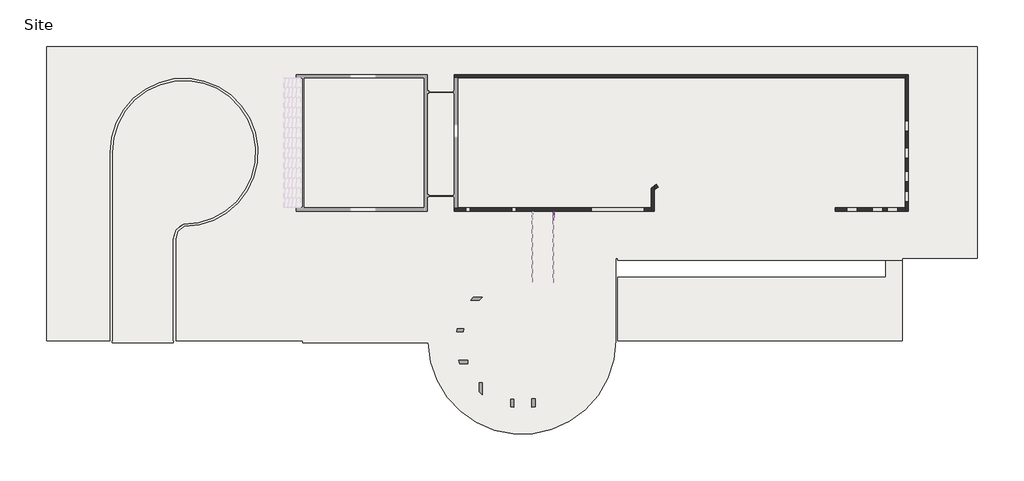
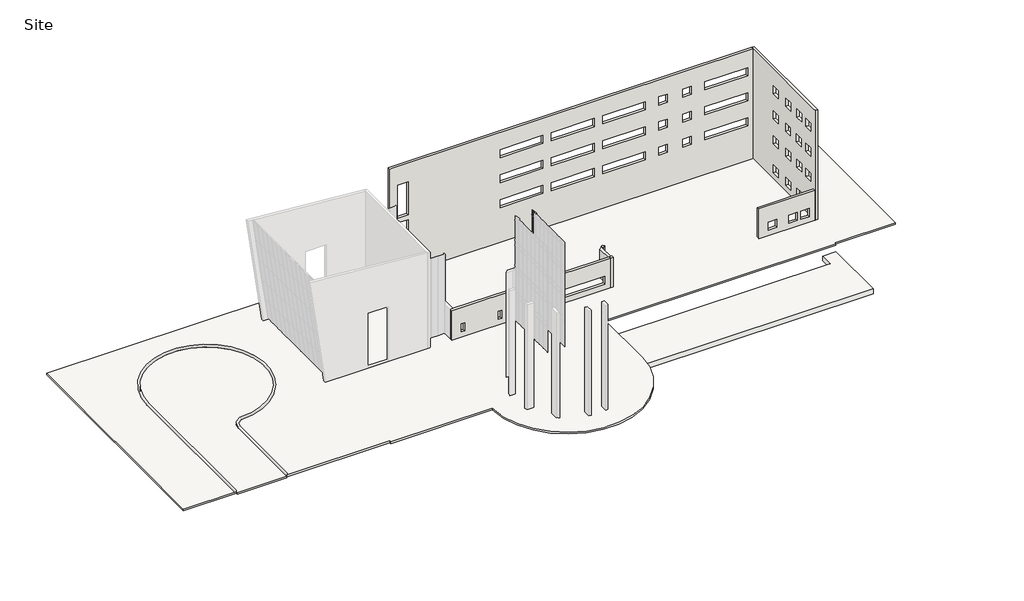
# One storey, part 4 of 4: 17 members, 6 walls, 3 slabs, 1 plate.
"""IFC4 building model written with IfcOpenShell, lengths in millimetres."""

import ifcopenshell
import ifcopenshell.guid

model = None  # the IFC model being written
_history = None  # IfcOwnerHistory: only IFC2X3 demands one
_inside = {}  # id of a spatial element -> (the spatial element, [elements in it])
_under = {}  # id of a project, library or spatial element -> (it, [spatial elements below it])
_declared = {}  # id of a project -> (the project, [libraries it declares])
_typed = {}  # id of a type object -> (the type object, [elements of that type])
_made_of = {}  # id of a material, layer set ... -> (it, [elements and type objects made of it])


def new_model(schema):
    """Start an empty IFC model of exactly this schema.

    Asked for "IFC4X3", IfcOpenShell would pick the latest addendum, in which some entities
    have other attributes; the version numbers below select the first issue.
    IFC2X3 requires an IfcOwnerHistory on every rooted entity: one is made here for all.
    """
    global model, _history
    if schema == "IFC4X3":
        model = ifcopenshell.file(schema_version=(4, 3, 0, 0))
    else:
        model = ifcopenshell.file(schema=schema)
    _inside.clear()
    _under.clear()
    _declared.clear()
    _typed.clear()
    _made_of.clear()
    _history = None
    if model.schema == "IFC2X3":
        org = make("IfcOrganization", Name="unknown")
        user = make(
            "IfcPersonAndOrganization",
            ThePerson=make("IfcPerson", FamilyName="unknown"),
            TheOrganization=org,
        )
        app = make(
            "IfcApplication",
            ApplicationDeveloper=org,
            Version="unknown",
            ApplicationFullName="unknown",
            ApplicationIdentifier="unknown",
        )
        _history = make(
            "IfcOwnerHistory",
            OwningUser=user,
            OwningApplication=app,
            ChangeAction="ADDED",
            CreationDate=0,
        )
    return model


def make(cls, **values):
    """One entity of the class cls with the attributes given. An attribute that is None is left unset."""
    return model.create_entity(
        cls, **{name: value for name, value in values.items() if value is not None}
    )


def rooted(cls, **values):
    """An entity with a GlobalId (a new one), such as an element, a storey or a relation."""
    return make(cls, GlobalId=ifcopenshell.guid.new(), OwnerHistory=_history, **values)


def si_unit(unit_type, name, prefix=None):
    """IfcSIUnit, for example si_unit("LENGTHUNIT", "METRE", prefix="MILLI")."""
    return make("IfcSIUnit", UnitType=unit_type, Prefix=prefix, Name=name)


def assignment(units):
    """IfcUnitAssignment: the units of a project."""
    return None if units is None else make("IfcUnitAssignment", Units=units)


def point(xyz):
    """IfcCartesianPoint."""
    return None if xyz is None else make("IfcCartesianPoint", Coordinates=xyz)


def direction(xyz):
    """IfcDirection."""
    return None if xyz is None else make("IfcDirection", DirectionRatios=xyz)


def frame(location, z_axis=None, x_axis=None):
    """IfcAxis2Placement3D, a coordinate frame: its origin and axes. An axis left out is left unset."""
    return make(
        "IfcAxis2Placement3D",
        Location=point(location),
        Axis=direction(z_axis),
        RefDirection=direction(x_axis),
    )


def frame_2d(location, x_axis=None):
    """IfcAxis2Placement2D, a coordinate frame in the plane: its origin and x axis."""
    return make(
        "IfcAxis2Placement2D", Location=point(location), RefDirection=direction(x_axis)
    )


def origin():
    """The frame at (0, 0, 0) with its axes left unset."""
    return frame((0.0, 0.0, 0.0))


def origin_with_axes():
    """The frame at (0, 0, 0) with the z axis (0, 0, 1) and the x axis (1, 0, 0) written out."""
    return frame((0.0, 0.0, 0.0), z_axis=(0.0, 0.0, 1.0), x_axis=(1.0, 0.0, 0.0))


def place(relative_to, where):
    """IfcLocalPlacement: puts the frame where relative to a parent placement (None: the world)."""
    return make(
        "IfcLocalPlacement", PlacementRelTo=relative_to, RelativePlacement=where
    )


def context(
    kind, dimensions, precision=None, world=None, true_north=None, identifier=None
):
    """IfcGeometricRepresentationContext, for example the 3D "Model" context."""
    return make(
        "IfcGeometricRepresentationContext",
        ContextIdentifier=identifier,
        ContextType=kind,
        CoordinateSpaceDimension=dimensions,
        Precision=precision,
        WorldCoordinateSystem=world,
        TrueNorth=true_north,
    )


def project(units=None, contexts=None):
    """IfcProject with its units and contexts."""
    return rooted(
        "IfcProject",
        Name="project",
        RepresentationContexts=contexts,
        UnitsInContext=assignment(units),
    )


def spatial(cls, under=None, at=None, **own):
    """A site, building, storey or space (cls), placed at a placement, below another one or the project."""
    s = rooted(cls, ObjectPlacement=at, **own)
    if under is not None:
        _under.setdefault(under.id(), (under, []))[1].append(s)
    return s


def polyline(points):
    """IfcPolyline through the points."""
    return make("IfcPolyline", Points=[point(p) for p in points])


def circle_curve(where, radius):
    """IfcCircle in the frame where."""
    return make("IfcCircle", Position=where, Radius=radius)


def trimmed(basis, trim1, trim2, sense, master):
    """IfcTrimmedCurve: the piece of a basis curve between two trims."""
    return make(
        "IfcTrimmedCurve",
        BasisCurve=basis,
        Trim1=trim1,
        Trim2=trim2,
        SenseAgreement=sense,
        MasterRepresentation=master,
    )


def segment(curve, same_sense, transition):
    """IfcCompositeCurveSegment."""
    return make(
        "IfcCompositeCurveSegment",
        Transition=transition,
        SameSense=same_sense,
        ParentCurve=curve,
    )


def composite_curve(segments, self_intersect=None):
    """IfcCompositeCurve: segments joined end to end."""
    return make("IfcCompositeCurve", Segments=segments, SelfIntersect=self_intersect)


def outline(outer, holes=None, kind="AREA"):
    """IfcArbitraryClosedProfileDef: a profile drawn as a closed curve; with holes, ...WithVoids."""
    if holes is None:
        return make("IfcArbitraryClosedProfileDef", ProfileType=kind, OuterCurve=outer)
    return make(
        "IfcArbitraryProfileDefWithVoids",
        ProfileType=kind,
        OuterCurve=outer,
        InnerCurves=holes,
    )


def extrude(swept, where, along, depth):
    """IfcExtrudedAreaSolid: the profile swept, set in the frame where, extruded along a direction by depth."""
    return make(
        "IfcExtrudedAreaSolid",
        SweptArea=swept,
        Position=where,
        ExtrudedDirection=direction(along),
        Depth=depth,
    )


def faces_of(points, faces, orient=None, outer=None):
    """IfcFace entities. A face is a list of loops; a loop is a list of indices into points, from 0.

    orient and outer hold one flag for each loop. By default every Orientation is true, the
    first loop of a face is its IfcFaceOuterBound and the others are IfcFaceBound.
    """
    made = []
    for i, loops in enumerate(faces):
        bounds = []
        for j, loop in enumerate(loops):
            is_outer = j == 0 if outer is None else outer[i][j]
            bounds.append(
                make(
                    "IfcFaceOuterBound" if is_outer else "IfcFaceBound",
                    Bound=make("IfcPolyLoop", Polygon=[points[k] for k in loop]),
                    Orientation=True if orient is None else orient[i][j],
                )
            )
        made.append(make("IfcFace", Bounds=bounds))
    return made


def faceted_brep(points, faces, orient=None, outer=None, voids=None):
    """IfcFacetedBrep: a solid bounded by flat faces; with voids (closed shells), ...WithVoids."""
    shared = [point(p) for p in points]
    hull = make("IfcClosedShell", CfsFaces=faces_of(shared, faces, orient, outer))
    if voids is None:
        return make("IfcFacetedBrep", Outer=hull)
    return make(
        "IfcFacetedBrepWithVoids",
        Outer=hull,
        Voids=[
            make(cls, CfsFaces=faces_of(shared, fs, o, b)) for cls, fs, o, b in voids
        ],
    )


def shape(context_of_items, identifier, shape_type, items):
    """IfcShapeRepresentation: the items that make up one representation, for example the "Body"."""
    return make(
        "IfcShapeRepresentation",
        ContextOfItems=context_of_items,
        RepresentationIdentifier=identifier,
        RepresentationType=shape_type,
        Items=items,
    )


def source(mapping_origin, context_of_items, identifier, shape_type, items):
    """IfcRepresentationMap: a shape defined once, which mapped items show again and again."""
    return make(
        "IfcRepresentationMap",
        MappingOrigin=mapping_origin,
        MappedRepresentation=shape(context_of_items, identifier, shape_type, items),
    )


def transform(
    local_origin,
    x_axis=None,
    y_axis=None,
    z_axis=None,
    scale=None,
    scale2=None,
    scale3=None,
    uniform=True,
):
    """IfcCartesianTransformationOperator3D, or its non-uniform kind. x_axis, y_axis, z_axis: its Axis1, 2, 3."""
    if uniform:
        return make(
            "IfcCartesianTransformationOperator3D",
            Axis1=direction(x_axis),
            Axis2=direction(y_axis),
            LocalOrigin=point(local_origin),
            Scale=scale,
            Axis3=direction(z_axis),
        )
    return make(
        "IfcCartesianTransformationOperator3DnonUniform",
        Axis1=direction(x_axis),
        Axis2=direction(y_axis),
        LocalOrigin=point(local_origin),
        Scale=scale,
        Axis3=direction(z_axis),
        Scale2=scale2,
        Scale3=scale3,
    )


def mapped(mapping_source, mapping_target):
    """IfcMappedItem: shows the shape of a source again, moved by a transform."""
    return make(
        "IfcMappedItem", MappingSource=mapping_source, MappingTarget=mapping_target
    )


def made_of(thing, what):
    """Note that an element or type object is made of a material, layer set ...; save() writes the relation."""
    if what is not None:
        _made_of.setdefault(what.id(), (what, []))[1].append(thing)
    return thing


def element(
    cls,
    number,
    at=None,
    inside=None,
    cuts=None,
    type_object=None,
    material=None,
    context=None,
    identifier="Body",
    shape_type=None,
    held_by="IfcProductDefinitionShape",
    body=None,
    shapes=None,
    **own,
):
    """One element of the class cls, such as IfcWall. Its Tag is "e" and its number.

    at: its placement. inside: the storey or other place that contains it. cuts: it is an
    opening in that element (IfcRelVoidsElement). A single representation is given by context,
    identifier, shape_type and body (its items); several are given by shapes. held_by: the class
    of the entity that holds the representations. save() writes the other relations.
    """
    e = rooted(cls, Tag="e%d" % number, ObjectPlacement=at, **own)
    if body is not None:
        shapes = [shape(context, identifier, shape_type, body)]
    if shapes is not None:
        e.Representation = make(held_by, Representations=shapes)
    if inside is not None:
        _inside.setdefault(inside.id(), (inside, []))[1].append(e)
    if cuts is not None:
        rooted(
            "IfcRelVoidsElement", RelatingBuildingElement=cuts, RelatedOpeningElement=e
        )
    if type_object is not None:
        _typed.setdefault(type_object.id(), (type_object, []))[1].append(e)
    return made_of(e, material)


def aggregate(whole, parts):
    """IfcRelAggregates: a whole, such as a stair, and the parts it consists of."""
    return rooted("IfcRelAggregates", RelatingObject=whole, RelatedObjects=parts)


def save(model, path):
    """Write the relations noted so far, then the file.

    IfcRelAggregates (storeys below a building ...), IfcRelContainedInSpatialStructure (elements
    in a storey), IfcRelDefinesByType, IfcRelAssociatesMaterial and IfcRelDeclares: one each for
    every whole, place, type object, material and project.
    """
    for whole, parts in _under.values():
        aggregate(whole, parts)
    for where, things in _inside.values():
        rooted(
            "IfcRelContainedInSpatialStructure",
            RelatedElements=things,
            RelatingStructure=where,
        )
    for kind, things in _typed.values():
        rooted("IfcRelDefinesByType", RelatedObjects=things, RelatingType=kind)
    for what, things in _made_of.values():
        rooted("IfcRelAssociatesMaterial", RelatedObjects=things, RelatingMaterial=what)
    for by, libraries in _declared.values():
        rooted("IfcRelDeclares", RelatingContext=by, RelatedDefinitions=libraries)
    model.write(path)


def plane_surface(at):
    """IfcPlane: the flat surface through the origin of the frame at, square to its z axis."""
    return make("IfcPlane", Position=at)


def cylinder_surface(at, radius):
    """IfcCylindricalSurface: all points at the distance radius from the z axis of the frame at."""
    return make("IfcCylindricalSurface", Position=at, Radius=radius)


def revolved_surface(curve, axis_point, axis_direction):
    """IfcSurfaceOfRevolution: the curve turned about the line through axis_point along axis_direction."""
    return make(
        "IfcSurfaceOfRevolution",
        SweptCurve=make("IfcArbitraryOpenProfileDef", ProfileType="CURVE", Curve=curve),
        AxisPosition=make("IfcAxis1Placement", Location=point(axis_point), Axis=direction(axis_direction)),
    )


def advanced_brep(points, edges, surfaces, faces):
    """IfcAdvancedBrep: a solid bounded by faces that lie on surfaces and meet in shared edges.

    An edge is (start, end): straight between two places in points (the first is 0);
    or (start, end, curve); or (start, end, curve, False) where it runs against its curve.
    A face is (place in surfaces, loops), or (place, loops, False) where it looks against
    its surface's normal. A loop lists edges by number (the first is 1), with a minus sign
    where the edge is run from its end to its start. The first loop is the outer one.
    """
    corners = [point(p) for p in points]
    vertices = [make("IfcVertexPoint", VertexGeometry=c) for c in corners]
    made = []
    for start, end, *more in edges:
        made.append(
            make(
                "IfcEdgeCurve",
                EdgeStart=vertices[start],
                EdgeEnd=vertices[end],
                EdgeGeometry=more[0] if more else make("IfcPolyline", Points=[corners[start], corners[end]]),
                SameSense=more[1] if len(more) > 1 else True,
            )
        )
    hull = []
    for where, loops, *sense in faces:
        bounds = []
        for j, loop in enumerate(loops):
            ring = [make("IfcOrientedEdge", EdgeElement=made[abs(k) - 1], Orientation=k > 0) for k in loop]
            bounds.append(
                make(
                    "IfcFaceOuterBound" if j == 0 else "IfcFaceBound",
                    Bound=make("IfcEdgeLoop", EdgeList=ring),
                    Orientation=True,
                )
            )
        hull.append(make("IfcAdvancedFace", Bounds=bounds, FaceSurface=surfaces[where], SameSense=sense[0] if sense else True))
    return make("IfcAdvancedBrep", Outer=make("IfcClosedShell", CfsFaces=hull))


def member_5d07894b(model_context):
    return source(origin(), model_context, "Body", "SweptSolid", [
        extrude(outline(polyline([(31.75, 63.5), (31.75, -63.5), (-31.75, -63.5), (-31.75, 63.5), (31.75, 63.5)])), frame((0.0, 0.0, -4629.15), z_axis=(0.0, 0.0, 1.0), x_axis=(1.0, 0.0, 0.0)), (0.0, 0.0, 1.0), 4629.15),
    ])


def member_3ba9e939(model_context):
    return source(origin(), model_context, "Body", "SweptSolid", [
        extrude(outline(polyline([(31.75, 63.5), (31.75, -63.5), (-31.75, -63.5), (-31.75, 63.5), (31.75, 63.5)])), frame((0.0, 0.0, -3746.5), z_axis=(0.0, 0.0, 1.0), x_axis=(1.0, 0.0, 0.0)), (0.0, 0.0, 1.0), 3746.5),
    ])


def member_ad567e07(model_context):
    return source(origin(), model_context, "Body", "SweptSolid", [
        extrude(outline(polyline([(31.75, 63.5), (31.75, -63.5), (-31.75, -63.5), (-31.75, 63.5), (31.75, 63.5)])), frame((0.0, 0.0, -819.15), z_axis=(0.0, 0.0, 1.0), x_axis=(1.0, 0.0, 0.0)), (0.0, 0.0, 1.0), 819.15),
    ])


def member_7db1855a(model_context):
    return source(origin(), model_context, "Body", "SweptSolid", [
        extrude(outline(polyline([(31.75, 63.5), (31.75, -63.5), (-31.75, -63.5), (-31.75, 63.5), (31.75, 63.5)])), frame((0.0, 0.0, -850.9), z_axis=(0.0, 0.0, 1.0), x_axis=(1.0, 0.0, 0.0)), (0.0, 0.0, 1.0), 850.9),
    ])


def member_ffd4c858(model_context):
    return source(origin(), model_context, "Body", "SweptSolid", [
        extrude(outline(polyline([(31.75, 63.5), (31.75, -63.5), (-31.75, -63.5), (-31.75, 63.5), (31.75, 63.5)])), frame((0.0, 0.0, -457.2), z_axis=(0.0, 0.0, 1.0), x_axis=(1.0, 0.0, 0.0)), (0.0, 0.0, 1.0), 457.2),
    ])


def member_15823cb3(model_context):
    return source(origin(), model_context, "Body", "SweptSolid", [
        extrude(outline(polyline([(0.0, 63.5), (0.0, -63.5), (-63.5, -63.5), (-63.5, 63.5), (0.0, 63.5)])), frame((0.0, 0.0, -457.2), z_axis=(0.0, 0.0, 1.0), x_axis=(1.0, 0.0, 0.0)), (0.0, 0.0, 1.0), 457.2),
    ])


def member_e9605c56(model_context):
    return source(origin(), model_context, "Body", "SweptSolid", [
        extrude(outline(polyline([(0.0, 63.5), (0.0, -63.5), (-63.5, -63.5), (-63.5, 63.5), (0.0, 63.5)])), frame((0.0, 0.0, -825.5), z_axis=(0.0, 0.0, 1.0), x_axis=(1.0, 0.0, 0.0)), (0.0, 0.0, 1.0), 825.5),
    ])


def system_panel_glazed_cc98a0ec(model_context):
    return source(origin(), model_context, "Body", "SweptSolid", [
        extrude(outline(polyline([(180.975, 19.05), (-180.975, 19.05), (-180.975, 44.45), (180.975, 44.45), (180.975, 19.05)])), origin_with_axes(), (0.0, 0.0, 1.0), 819.15),
    ])


model = new_model("IFC4")

# Units and contexts
model_context = context("Model", 3, world=origin())
ifc_project = project(units=[si_unit("LENGTHUNIT", "METRE", prefix="MILLI")], contexts=[model_context])

# Site, building, storey
site = spatial("IfcSite", under=ifc_project)
building = spatial("IfcBuilding", under=site)
storey = spatial("IfcBuildingStorey", under=building, Name="Site", Elevation=-152.4)

# Members
placement = place(None, origin())
member_shape = member_5d07894b(model_context)
element("IfcMember", 1, ObjectType="Rectangular Mullion1 : 2.5\" x 5\" rectangular", at=placement, inside=storey, context=model_context, shape_type="MappedRepresentation", body=[
    mapped(member_shape, transform((10878.8276119, 37629.311889, -88.9), x_axis=(0.0, 1.0, 0.0), y_axis=(1.0, 0.0, 0.0), z_axis=(0.0, 0.0, -1.0))),
])
member_2_shape = member_3ba9e939(model_context)
element("IfcMember", 2, ObjectType="Rectangular Mullion1 : 2.5\" x 5\" rectangular", at=placement, inside=storey, context=model_context, shape_type="MappedRepresentation", body=[
    mapped(member_2_shape, transform((10878.8276119, 37629.311889, 5518.15), x_axis=(0.0, 1.0, 0.0), y_axis=(1.0, 0.0, 0.0), z_axis=(0.0, 0.0, -1.0))),
])
element("IfcMember", 3, ObjectType="Rectangular Mullion1 : 2.5\" x 5\" rectangular", at=placement, inside=storey, context=model_context, shape_type="MappedRepresentation", body=[
    mapped(member_2_shape, transform((10878.8276119, 37629.311889, 10242.55), x_axis=(0.0, 1.0, 0.0), y_axis=(1.0, 0.0, 0.0), z_axis=(0.0, 0.0, -1.0))),
])
element("IfcMember", 4, ObjectType="Rectangular Mullion1 : 2.5\" x 5\" rectangular", at=placement, inside=storey, context=model_context, shape_type="MappedRepresentation", body=[
    mapped(member_2_shape, transform((10878.8276119, 37629.311889, 14966.95), x_axis=(0.0, 1.0, 0.0), y_axis=(1.0, 0.0, 0.0), z_axis=(0.0, 0.0, -1.0))),
])
member_3_shape = member_ad567e07(model_context)
element("IfcMember", 5, ObjectType="Rectangular Mullion1 : 2.5\" x 5\" rectangular", at=placement, inside=storey, context=model_context, shape_type="MappedRepresentation", body=[
    mapped(member_3_shape, transform((10878.8276119, 37629.311889, 18776.95), x_axis=(0.0, 1.0, 0.0), y_axis=(1.0, 0.0, 0.0), z_axis=(0.0, 0.0, -1.0))),
])
member_4_shape = member_7db1855a(model_context)
element("IfcMember", 6, ObjectType="Rectangular Mullion1 : 2.5\" x 5\" rectangular", at=placement, inside=storey, context=model_context, shape_type="MappedRepresentation", body=[
    mapped(member_4_shape, transform((10878.8276119, 37629.311889, 14052.55), x_axis=(0.0, 1.0, 0.0), y_axis=(1.0, 0.0, 0.0), z_axis=(0.0, 0.0, -1.0))),
])
element("IfcMember", 7, ObjectType="Rectangular Mullion1 : 2.5\" x 5\" rectangular", at=placement, inside=storey, context=model_context, shape_type="MappedRepresentation", body=[
    mapped(member_4_shape, transform((10878.8276119, 37629.311889, 4603.75), x_axis=(0.0, 1.0, 0.0), y_axis=(1.0, 0.0, 0.0), z_axis=(0.0, 0.0, -1.0))),
])
element("IfcMember", 8, ObjectType="Rectangular Mullion1 : 2.5\" x 5\" rectangular", at=placement, inside=storey, context=model_context, shape_type="MappedRepresentation", body=[
    mapped(member_4_shape, transform((10878.8276119, 37629.311889, 9328.15), x_axis=(0.0, 1.0, 0.0), y_axis=(1.0, 0.0, 0.0), z_axis=(0.0, 0.0, -1.0))),
])
member_5_shape = member_ffd4c858(model_context)
element("IfcMember", 9, ObjectType="Rectangular Mullion1 : 2.5\" x 5\" rectangular", at=placement, inside=storey, context=model_context, shape_type="MappedRepresentation", body=[
    mapped(member_5_shape, transform((10878.8276119, 38086.511889, 14935.2), x_axis=(0.0, 0.0, 1.0), y_axis=(1.0, 0.0, 0.0), z_axis=(0.0, 1.0, 0.0))),
])
element("IfcMember", 10, ObjectType="Rectangular Mullion1 : 2.5\" x 5\" rectangular", at=placement, inside=storey, context=model_context, shape_type="MappedRepresentation", body=[
    mapped(member_5_shape, transform((10878.8276119, 38086.511889, 10210.8), x_axis=(0.0, 0.0, 1.0), y_axis=(1.0, 0.0, 0.0), z_axis=(0.0, 1.0, 0.0))),
])
element("IfcMember", 11, ObjectType="Rectangular Mullion1 : 2.5\" x 5\" rectangular", at=placement, inside=storey, context=model_context, shape_type="MappedRepresentation", body=[
    mapped(member_5_shape, transform((10878.8276119, 38086.511889, 5486.4), x_axis=(0.0, 0.0, 1.0), y_axis=(1.0, 0.0, 0.0), z_axis=(0.0, 1.0, 0.0))),
])
element("IfcMember", 12, ObjectType="Rectangular Mullion1 : 2.5\" x 5\" rectangular", at=placement, inside=storey, context=model_context, shape_type="MappedRepresentation", body=[
    mapped(member_5_shape, transform((10878.8276119, 38086.511889, 9296.4), x_axis=(0.0, 0.0, 1.0), y_axis=(1.0, 0.0, 0.0), z_axis=(0.0, 1.0, 0.0))),
])
element("IfcMember", 13, ObjectType="Rectangular Mullion1 : 2.5\" x 5\" rectangular", at=placement, inside=storey, context=model_context, shape_type="MappedRepresentation", body=[
    mapped(member_5_shape, transform((10878.8276119, 38086.511889, 4572.0), x_axis=(0.0, 0.0, 1.0), y_axis=(1.0, 0.0, 0.0), z_axis=(0.0, 1.0, 0.0))),
])
element("IfcMember", 14, ObjectType="Rectangular Mullion1 : 2.5\" x 5\" rectangular", at=placement, inside=storey, context=model_context, shape_type="MappedRepresentation", body=[
    mapped(member_5_shape, transform((10878.8276119, 38086.511889, 14020.8), x_axis=(0.0, 0.0, 1.0), y_axis=(1.0, 0.0, 0.0), z_axis=(0.0, 1.0, 0.0))),
])
element("IfcMember", 15, ObjectType="Rectangular Mullion1 : 2.5\" x 5\" rectangular", at=placement, inside=storey, context=model_context, shape_type="MappedRepresentation", body=[
    mapped(member_5_shape, transform((10878.8276119, 38086.511889, 18745.2), x_axis=(0.0, 0.0, 1.0), y_axis=(1.0, 0.0, 0.0), z_axis=(0.0, 1.0, 0.0))),
])
member_6_shape = member_15823cb3(model_context)
element("IfcMember", 16, ObjectType="Rectangular Mullion1 : 2.5\" x 5\" rectangular", at=placement, inside=storey, context=model_context, shape_type="MappedRepresentation", body=[
    mapped(member_6_shape, transform((10878.8276119, 37629.311889, -152.4), x_axis=(0.0, 0.0, -1.0), y_axis=(1.0, 0.0, 0.0), z_axis=(0.0, -1.0, 0.0))),
])
member_7_shape = member_e9605c56(model_context)
element("IfcMember", 17, ObjectType="Rectangular Mullion1 : 2.5\" x 5\" rectangular", at=placement, inside=storey, context=model_context, shape_type="MappedRepresentation", body=[
    mapped(member_7_shape, transform((10878.8276119, 37629.311889, 19659.6), x_axis=(0.0, 0.0, 1.0), y_axis=(1.0, 0.0, 0.0), z_axis=(0.0, 1.0, 0.0))),
])

# Plate
system_panel_glazed_shape = system_panel_glazed_cc98a0ec(model_context)
element("IfcPlate", 18, ObjectType="System Panel : Glazed", at=placement, inside=storey, context=model_context, shape_type="MappedRepresentation", body=[
    mapped(system_panel_glazed_shape, transform((10878.8276119, 37842.036889, 18776.95), x_axis=(0.0, 1.0, 0.0), y_axis=(-1.0, 0.0, 0.0), z_axis=(0.0, 0.0, 1.0))),
])

# Slabs
element("IfcSlab", 19, ObjectType="a_drive", at=placement, inside=storey, context=model_context, shape_type="SweptSolid", body=[
    extrude(outline(composite_curve([segment(trimmed(circle_curve(frame_2d((-42359.2307976, 46620.911889)), 10363.2), [point((-52722.4307976, 46620.911889))], [point((-42384.6461103, 36257.743054))], False, "CARTESIAN"), True, "CONTINUOUS"), segment(trimmed(circle_curve(frame_2d((-41679.1721267, 34169.1174245)), 2204.5522361), [point((-42384.6461103, 36257.743054))], [point((-43883.2307976, 34122.4704857))], True, "CARTESIAN"), True, "CONTINUOUS"), segment(polyline([(-43883.2307976, 34122.4704857), (-43883.2307976, 19188.911889), (-52722.4307976, 19188.911889), (-52722.4307976, 46620.911889)]), True, "CONTINUOUS")], self_intersect=False)), frame((0.0, 0.0, -457.2), z_axis=(0.0, 0.0, 1.0), x_axis=(1.0, 0.0, 0.0)), (0.0, 0.0, 1.0), 304.8),
])
element("IfcSlab", 20, ObjectType="a_site paving", at=placement, inside=storey, context=model_context, shape_type="SweptSolid", body=[
    extrude(outline(composite_curve([segment(polyline([(71940.7692024, 61860.911889), (71940.7692024, 31380.911889), (61120.3692024, 31380.911889), (61120.3692024, 31076.111889), (20124.7692024, 31076.111889), (20124.7692024, 31380.911889), (19819.9692024, 31380.911889), (19819.9692024, 19493.711889)]), True, "CONTINUOUS"), segment(trimmed(circle_curve(frame_2d((6332.9997246, 19493.711889)), 13486.9694778), [point((19819.9692024, 19493.711889))], [point((-7150.5251356, 19188.911889))], False, "CARTESIAN"), True, "CONTINUOUS"), segment(polyline([(-7150.5251356, 19188.911889), (-25290.4307976, 19188.911889), (-25290.4307976, 19493.711889), (-43883.2307976, 19493.711889), (-43883.2307976, 34122.4704857)]), True, "CONTINUOUS"), segment(trimmed(circle_curve(frame_2d((-41679.1721267, 34169.1174245)), 2204.5522361), [point((-43883.2307976, 34122.4704857))], [point((-42384.6461103, 36257.743054))], False, "CARTESIAN"), True, "CONTINUOUS"), segment(trimmed(circle_curve(frame_2d((-42359.2307976, 46620.911889)), 10363.2), [point((-42384.6461103, 36257.743054))], [point((-52722.4307976, 46620.911889))], True, "CARTESIAN"), True, "CONTINUOUS"), segment(polyline([(-52722.4307976, 46620.911889), (-52722.4307976, 19493.711889), (-62171.2307976, 19493.711889), (-62171.2307976, 61860.911889), (71940.7692024, 61860.911889)]), True, "CONTINUOUS")], self_intersect=False)), frame((0.0, 0.0, -457.2), z_axis=(0.0, 0.0, 1.0), x_axis=(1.0, 0.0, 0.0)), (0.0, 0.0, 1.0), 304.8),
])
element("IfcSlab", 21, ObjectType="water feature", at=placement, inside=storey, context=model_context, shape_type="SweptSolid", body=[
    extrude(outline(polyline([(20124.7692024, 28656.761889), (58732.7692024, 28656.761889), (58732.7692024, 31076.111889), (61120.3692024, 31076.111889), (61120.3692024, 19493.711889), (20124.7692024, 19493.711889), (20124.7692024, 28656.761889)])), frame((0.0, 0.0, -2590.8), z_axis=(0.0, 0.0, 1.0), x_axis=(1.0, 0.0, 0.0)), (0.0, 0.0, 1.0), 914.4),
])

# Walls
element("IfcWall", 22, ObjectType="Stone on CMU", at=placement, inside=storey, context=model_context, shape_type="AdvancedBrep", body=[
    advanced_brep(
    [(24926.9567024, 41466.5312272, -152.4), (24926.9567024, 38618.324389, -152.4), (24926.9567024, 38164.299389, -152.4), (24926.9567024, 38164.299389, 5486.4), (24926.9567024, 38618.324389, 5486.4), (24926.9567024, 38618.324389, 5181.6), (24926.9567024, 41466.5312272, 5181.6), (25380.9817024, 41789.4772012, -152.4), (25380.9817024, 41789.4772012, 5181.6), (25380.9817024, 38618.324389, 5181.6), (25380.9817024, 38618.324389, 5486.4), (25380.9817024, 38164.299389, 5486.4), (25380.9817024, 38164.299389, -152.4), (25380.9817024, 41234.3316602, -152.4)],
    [
        (0, 1),
        (1, 2),
        (2, 3),
        (3, 4),
        (4, 5),
        (5, 6),
        (6, 0),
        (7, 8),
        (8, 9),
        (9, 10),
        (10, 11),
        (11, 12),
        (12, 13),
        (13, 7),
        (0, 7, circle_curve(frame((38486.136956, 22884.5054507, -152.4), z_axis=(0.0, 0.0, -1.0), x_axis=(1.0, 0.0, 0.0)), 23003.1095965)),
        (12, 2),
        (3, 11),
        (10, 4),
        (9, 5),
        (8, 6, circle_curve(frame((38486.136956, 22884.5054507, 5181.6), z_axis=(0.0, 0.0, 1.0), x_axis=(1.0, 0.0, 0.0)), 23003.1095965)),
    ],
    [
        plane_surface(frame((24926.9567024, 41350.796414, -152.4), z_axis=(-1.0, 0.0, 0.0), x_axis=(0.0, -1.0, 0.0))),
        plane_surface(frame((25380.9817024, 41350.796414, -152.4), z_axis=(1.0, 0.0, 0.0), x_axis=(0.0, 1.0, 0.0))),
        plane_surface(frame((24926.9567024, 41350.796414, -152.4), z_axis=(0.0, 0.0, -1.0), x_axis=(1.0, 0.0, 0.0))),
        plane_surface(frame((24926.9567024, 38391.311889, 5486.4), z_axis=(0.0, 0.0, 1.0), x_axis=(1.0, 0.0, 0.0))),
        plane_surface(frame((24926.9567024, 38618.324389, 5486.4), z_axis=(0.0, 1.0, 0.0), x_axis=(1.0, 0.0, 0.0))),
        plane_surface(frame((24926.9567024, 38618.324389, 5181.6), z_axis=(0.0, 0.0, 1.0), x_axis=(1.0, 0.0, 0.0))),
        plane_surface(frame((24696.7692024, 38164.299389, -152.4), z_axis=(0.0, -1.0, 0.0), x_axis=(1.0, 0.0, 0.0))),
        cylinder_surface(frame((38486.136956, 22884.5054507, -152.4), z_axis=(0.0, 0.0, 1.0), x_axis=(1.0, 0.0, 0.0)), 23003.1095965),
    ],
    [
        (0, [[1, 2, 3, 4, 5, 6, 7]]),
        (1, [[8, 9, 10, 11, 12, 13, 14]]),
        (2, [[-2, -1, 15, -14, -13, 16]]),
        (3, [[-4, 17, -11, 18]]),
        (4, [[-5, -18, -10, 19]]),
        (5, [[-6, -19, -9, 20]]),
        (6, [[-3, -16, -12, -17]]),
        (7, [[-7, -20, -8, -15]]),
    ],
),
])
element("IfcWall", 23, ObjectType="Stone on CMU", at=placement, inside=storey, context=model_context, shape_type="Brep", body=[
    faceted_brep([(24926.9567024, 38618.324389, 5486.4), (6799.2942024, 38618.324389, 5486.4), (6656.4192024, 38618.324389, 5486.4), (-2965.7977165, 38618.324389, 5486.4), (-3419.8227165, 38618.324389, 5486.4), (-3419.8227165, 38164.299389, 5486.4), (24926.9567024, 38164.299389, 5486.4), (24926.9567024, 38618.324389, -152.4), (-2965.7977165, 38618.324389, -152.4), (-3419.8227165, 38618.324389, -152.4), (24926.9567024, 38618.324389, 5181.6), (4884.7692024, 38618.324389, 2438.4), (4884.7692024, 38618.324389, 914.4), (5494.3692024, 38618.324389, 914.4), (5494.3692024, 38618.324389, 2438.4), (-1750.9807976, 38618.324389, 2438.4), (-1750.9807976, 38618.324389, 914.4), (-1141.3807976, 38618.324389, 914.4), (-1141.3807976, 38618.324389, 2438.4), (16314.7692024, 38618.324389, 2438.4), (16314.7692024, 38618.324389, 914.4), (23934.7692024, 38618.324389, 914.4), (23934.7692024, 38618.324389, 2438.4), (24926.9567024, 38164.299389, -152.4), (-3419.8227165, 38164.299389, -152.4), (4884.7692024, 38164.299389, 2438.4), (5494.3692024, 38164.299389, 2438.4), (5494.3692024, 38164.299389, 914.4), (4884.7692024, 38164.299389, 914.4), (-1750.9807976, 38164.299389, 2438.4), (-1141.3807976, 38164.299389, 2438.4), (-1141.3807976, 38164.299389, 914.4), (-1750.9807976, 38164.299389, 914.4), (16314.7692024, 38164.299389, 2438.4), (23934.7692024, 38164.299389, 2438.4), (23934.7692024, 38164.299389, 914.4), (16314.7692024, 38164.299389, 914.4)], [[[0, 1, 2, 3, 4, 5, 6]], [[7, 8, 9, 4, 3, 2, 1, 0, 10], [11, 12, 13, 14], [15, 16, 17, 18], [19, 20, 21, 22]], [[23, 6, 5, 24], [25, 26, 27, 28], [29, 30, 31, 32], [33, 34, 35, 36]], [[9, 8, 7, 23, 24]], [[7, 10, 0, 6, 23]], [[4, 9, 24, 5]], [[12, 11, 25, 28]], [[13, 12, 28, 27]], [[14, 13, 27, 26]], [[11, 14, 26, 25]], [[16, 15, 29, 32]], [[17, 16, 32, 31]], [[18, 17, 31, 30]], [[15, 18, 30, 29]], [[20, 19, 33, 36]], [[21, 20, 36, 35]], [[22, 21, 35, 34]], [[19, 22, 34, 33]]]),
])
element("IfcWall", 24, ObjectType="Stone on CMU", at=placement, inside=storey, context=model_context, shape_type="Brep", body=[
    faceted_brep([(61502.9567024, 38618.324389, -152.4), (51444.5567024, 38618.324389, -152.4), (51444.5567024, 38618.324389, 0.0), (51444.5567024, 38618.324389, 5181.6), (51444.5567024, 38618.324389, 5486.4), (61502.9567024, 38618.324389, 5486.4), (53119.3692024, 38618.324389, 2438.4), (53119.3692024, 38618.324389, 914.4), (54643.3692024, 38618.324389, 914.4), (54643.3692024, 38618.324389, 2438.4), (56776.9692024, 38618.324389, 2438.4), (56776.9692024, 38618.324389, 914.4), (58300.9692024, 38618.324389, 914.4), (58300.9692024, 38618.324389, 2438.4), (58910.5692024, 38618.324389, 2438.4), (58910.5692024, 38618.324389, 914.4), (60434.5692024, 38618.324389, 914.4), (60434.5692024, 38618.324389, 2438.4), (61502.9567024, 38164.299389, -152.4), (61502.9567024, 38164.299389, 5486.4), (51444.5567024, 38164.299389, 5486.4), (51444.5567024, 38164.299389, -152.4), (53119.3692024, 38164.299389, 2438.4), (54643.3692024, 38164.299389, 2438.4), (54643.3692024, 38164.299389, 914.4), (53119.3692024, 38164.299389, 914.4), (56776.9692024, 38164.299389, 2438.4), (58300.9692024, 38164.299389, 2438.4), (58300.9692024, 38164.299389, 914.4), (56776.9692024, 38164.299389, 914.4), (58910.5692024, 38164.299389, 2438.4), (60434.5692024, 38164.299389, 2438.4), (60434.5692024, 38164.299389, 914.4), (58910.5692024, 38164.299389, 914.4)], [[[0, 1, 2, 3, 4, 5], [6, 7, 8, 9], [10, 11, 12, 13], [14, 15, 16, 17]], [[18, 19, 20, 21], [22, 23, 24, 25], [26, 27, 28, 29], [30, 31, 32, 33]], [[1, 0, 18, 21]], [[5, 4, 20, 19]], [[4, 3, 2, 1, 21, 20]], [[0, 5, 19, 18]], [[7, 6, 22, 25]], [[8, 7, 25, 24]], [[9, 8, 24, 23]], [[6, 9, 23, 22]], [[11, 10, 26, 29]], [[12, 11, 29, 28]], [[13, 12, 28, 27]], [[10, 13, 27, 26]], [[15, 14, 30, 33]], [[16, 15, 33, 32]], [[17, 16, 32, 31]], [[14, 17, 31, 30]]]),
])
element("IfcWall", 25, ObjectType="Stone on CMU", at=placement, inside=storey, context=model_context, shape_type="Brep", body=[
    faceted_brep([(-3419.8227165, 57366.699389, -152.4), (-2965.7977165, 57366.699389, -152.4), (61502.9567024, 57366.699389, -152.4), (61502.9567024, 57366.699389, 20574.0), (-2965.7977165, 57366.699389, 20574.0), (-3419.8227165, 57366.699389, 20574.0), (-3419.8227165, 57366.699389, 5486.4), (-1998.6307976, 57366.699389, 10820.4), (-1998.6307976, 57366.699389, 17068.8), (-169.8307976, 57366.699389, 17068.8), (-169.8307976, 57366.699389, 10820.4), (-1998.6307976, 57366.699389, 3657.6), (-1998.6307976, 57366.699389, 9906.0), (-169.8307976, 57366.699389, 9906.0), (-169.8307976, 57366.699389, 3657.6), (50452.3692024, 57366.699389, 17373.6), (50452.3692024, 57366.699389, 15849.6), (48928.3692024, 57366.699389, 15849.6), (48928.3692024, 57366.699389, 17373.6), (46185.1692024, 57366.699389, 17373.6), (46185.1692024, 57366.699389, 15849.6), (44661.1692024, 57366.699389, 15849.6), (44661.1692024, 57366.699389, 17373.6), (50452.3692024, 57366.699389, 12649.2), (50452.3692024, 57366.699389, 11125.2), (48928.3692024, 57366.699389, 11125.2), (48928.3692024, 57366.699389, 12649.2), (46185.1692024, 57366.699389, 12649.2), (46185.1692024, 57366.699389, 11125.2), (44661.1692024, 57366.699389, 11125.2), (44661.1692024, 57366.699389, 12649.2), (50452.3692024, 57366.699389, 7924.8), (50452.3692024, 57366.699389, 6400.8), (48928.3692024, 57366.699389, 6400.8), (48928.3692024, 57366.699389, 7924.8), (46185.1692024, 57366.699389, 7924.8), (46185.1692024, 57366.699389, 6400.8), (44661.1692024, 57366.699389, 6400.8), (44661.1692024, 57366.699389, 7924.8), (60510.7692024, 57366.699389, 17373.6), (60510.7692024, 57366.699389, 15849.6), (52890.7692024, 57366.699389, 15849.6), (52890.7692024, 57366.699389, 17373.6), (60510.7692024, 57366.699389, 12649.2), (60510.7692024, 57366.699389, 11125.2), (52890.7692024, 57366.699389, 11125.2), (52890.7692024, 57366.699389, 12649.2), (60510.7692024, 57366.699389, 7924.8), (60510.7692024, 57366.699389, 6400.8), (52890.7692024, 57366.699389, 6400.8), (52890.7692024, 57366.699389, 7924.8), (23934.7692024, 57366.699389, 17373.6), (23934.7692024, 57366.699389, 15849.6), (16314.7692024, 57366.699389, 15849.6), (16314.7692024, 57366.699389, 17373.6), (23934.7692024, 57366.699389, 12649.2), (23934.7692024, 57366.699389, 11125.2), (16314.7692024, 57366.699389, 11125.2), (16314.7692024, 57366.699389, 12649.2), (23934.7692024, 57366.699389, 7924.8), (23934.7692024, 57366.699389, 6400.8), (16314.7692024, 57366.699389, 6400.8), (16314.7692024, 57366.699389, 7924.8), (33078.7692024, 57366.699389, 17373.6), (33078.7692024, 57366.699389, 15849.6), (25458.7692024, 57366.699389, 15849.6), (25458.7692024, 57366.699389, 17373.6), (33078.7692024, 57366.699389, 12649.2), (33078.7692024, 57366.699389, 11125.2), (25458.7692024, 57366.699389, 11125.2), (25458.7692024, 57366.699389, 12649.2), (33078.7692024, 57366.699389, 7924.8), (33078.7692024, 57366.699389, 6400.8), (25458.7692024, 57366.699389, 6400.8), (25458.7692024, 57366.699389, 7924.8), (42222.7692024, 57366.699389, 17373.6), (42222.7692024, 57366.699389, 15849.6), (34602.7692024, 57366.699389, 15849.6), (34602.7692024, 57366.699389, 17373.6), (42222.7692024, 57366.699389, 12649.2), (42222.7692024, 57366.699389, 11125.2), (34602.7692024, 57366.699389, 11125.2), (34602.7692024, 57366.699389, 12649.2), (42222.7692024, 57366.699389, 7924.8), (42222.7692024, 57366.699389, 6400.8), (34602.7692024, 57366.699389, 6400.8), (34602.7692024, 57366.699389, 7924.8), (61502.9567024, 57820.724389, -152.4), (-3419.8227165, 57820.724389, -152.4), (-3419.8227165, 57820.724389, 20574.0), (61502.9567024, 57820.724389, 20574.0), (-1998.6307976, 57820.724389, 17068.8), (-1998.6307976, 57820.724389, 10820.4), (-169.8307976, 57820.724389, 10820.4), (-169.8307976, 57820.724389, 17068.8), (-1998.6307976, 57820.724389, 9906.0), (-1998.6307976, 57820.724389, 3657.6), (-169.8307976, 57820.724389, 3657.6), (-169.8307976, 57820.724389, 9906.0), (50452.3692024, 57820.724389, 17373.6), (48928.3692024, 57820.724389, 17373.6), (48928.3692024, 57820.724389, 15849.6), (50452.3692024, 57820.724389, 15849.6), (46185.1692024, 57820.724389, 17373.6), (44661.1692024, 57820.724389, 17373.6), (44661.1692024, 57820.724389, 15849.6), (46185.1692024, 57820.724389, 15849.6), (50452.3692024, 57820.724389, 12649.2), (48928.3692024, 57820.724389, 12649.2), (48928.3692024, 57820.724389, 11125.2), (50452.3692024, 57820.724389, 11125.2), (46185.1692024, 57820.724389, 12649.2), (44661.1692024, 57820.724389, 12649.2), (44661.1692024, 57820.724389, 11125.2), (46185.1692024, 57820.724389, 11125.2), (50452.3692024, 57820.724389, 7924.8), (48928.3692024, 57820.724389, 7924.8), (48928.3692024, 57820.724389, 6400.8), (50452.3692024, 57820.724389, 6400.8), (46185.1692024, 57820.724389, 7924.8), (44661.1692024, 57820.724389, 7924.8), (44661.1692024, 57820.724389, 6400.8), (46185.1692024, 57820.724389, 6400.8), (60510.7692024, 57820.724389, 17373.6), (52890.7692024, 57820.724389, 17373.6), (52890.7692024, 57820.724389, 15849.6), (60510.7692024, 57820.724389, 15849.6), (60510.7692024, 57820.724389, 12649.2), (52890.7692024, 57820.724389, 12649.2), (52890.7692024, 57820.724389, 11125.2), (60510.7692024, 57820.724389, 11125.2), (60510.7692024, 57820.724389, 7924.8), (52890.7692024, 57820.724389, 7924.8), (52890.7692024, 57820.724389, 6400.8), (60510.7692024, 57820.724389, 6400.8), (23934.7692024, 57820.724389, 17373.6), (16314.7692024, 57820.724389, 17373.6), (16314.7692024, 57820.724389, 15849.6), (23934.7692024, 57820.724389, 15849.6), (23934.7692024, 57820.724389, 12649.2), (16314.7692024, 57820.724389, 12649.2), (16314.7692024, 57820.724389, 11125.2), (23934.7692024, 57820.724389, 11125.2), (23934.7692024, 57820.724389, 7924.8), (16314.7692024, 57820.724389, 7924.8), (16314.7692024, 57820.724389, 6400.8), (23934.7692024, 57820.724389, 6400.8), (33078.7692024, 57820.724389, 17373.6), (25458.7692024, 57820.724389, 17373.6), (25458.7692024, 57820.724389, 15849.6), (33078.7692024, 57820.724389, 15849.6), (33078.7692024, 57820.724389, 12649.2), (25458.7692024, 57820.724389, 12649.2), (25458.7692024, 57820.724389, 11125.2), (33078.7692024, 57820.724389, 11125.2), (33078.7692024, 57820.724389, 7924.8), (25458.7692024, 57820.724389, 7924.8), (25458.7692024, 57820.724389, 6400.8), (33078.7692024, 57820.724389, 6400.8), (42222.7692024, 57820.724389, 17373.6), (34602.7692024, 57820.724389, 17373.6), (34602.7692024, 57820.724389, 15849.6), (42222.7692024, 57820.724389, 15849.6), (42222.7692024, 57820.724389, 12649.2), (34602.7692024, 57820.724389, 12649.2), (34602.7692024, 57820.724389, 11125.2), (42222.7692024, 57820.724389, 11125.2), (42222.7692024, 57820.724389, 7924.8), (34602.7692024, 57820.724389, 7924.8), (34602.7692024, 57820.724389, 6400.8), (42222.7692024, 57820.724389, 6400.8)], [[[0, 1, 2, 3, 4, 5, 6], [7, 8, 9, 10], [11, 12, 13, 14], [15, 16, 17, 18], [19, 20, 21, 22], [23, 24, 25, 26], [27, 28, 29, 30], [31, 32, 33, 34], [35, 36, 37, 38], [39, 40, 41, 42], [43, 44, 45, 46], [47, 48, 49, 50], [51, 52, 53, 54], [55, 56, 57, 58], [59, 60, 61, 62], [63, 64, 65, 66], [67, 68, 69, 70], [71, 72, 73, 74], [75, 76, 77, 78], [79, 80, 81, 82], [83, 84, 85, 86]], [[87, 88, 89, 90], [91, 92, 93, 94], [95, 96, 97, 98], [99, 100, 101, 102], [103, 104, 105, 106], [107, 108, 109, 110], [111, 112, 113, 114], [115, 116, 117, 118], [119, 120, 121, 122], [123, 124, 125, 126], [127, 128, 129, 130], [131, 132, 133, 134], [135, 136, 137, 138], [139, 140, 141, 142], [143, 144, 145, 146], [147, 148, 149, 150], [151, 152, 153, 154], [155, 156, 157, 158], [159, 160, 161, 162], [163, 164, 165, 166], [167, 168, 169, 170]], [[0, 6, 5, 89, 88]], [[92, 91, 8, 7]], [[93, 92, 7, 10]], [[94, 93, 10, 9]], [[91, 94, 9, 8]], [[95, 12, 11, 96]], [[96, 11, 14, 97]], [[97, 14, 13, 98]], [[12, 95, 98, 13]], [[15, 18, 100, 99]], [[18, 17, 101, 100]], [[17, 16, 102, 101]], [[16, 15, 99, 102]], [[19, 22, 104, 103]], [[22, 21, 105, 104]], [[21, 20, 106, 105]], [[20, 19, 103, 106]], [[23, 26, 108, 107]], [[26, 25, 109, 108]], [[25, 24, 110, 109]], [[24, 23, 107, 110]], [[27, 30, 112, 111]], [[30, 29, 113, 112]], [[29, 28, 114, 113]], [[28, 27, 111, 114]], [[31, 34, 116, 115]], [[34, 33, 117, 116]], [[33, 32, 118, 117]], [[32, 31, 115, 118]], [[35, 38, 120, 119]], [[38, 37, 121, 120]], [[37, 36, 122, 121]], [[36, 35, 119, 122]], [[3, 2, 87, 90]], [[2, 1, 0, 88, 87]], [[5, 4, 3, 90, 89]], [[40, 39, 123, 126]], [[41, 40, 126, 125]], [[42, 41, 125, 124]], [[39, 42, 124, 123]], [[44, 43, 127, 130]], [[45, 44, 130, 129]], [[46, 45, 129, 128]], [[43, 46, 128, 127]], [[48, 47, 131, 134]], [[49, 48, 134, 133]], [[50, 49, 133, 132]], [[47, 50, 132, 131]], [[52, 51, 135, 138]], [[53, 52, 138, 137]], [[54, 53, 137, 136]], [[51, 54, 136, 135]], [[56, 55, 139, 142]], [[57, 56, 142, 141]], [[58, 57, 141, 140]], [[55, 58, 140, 139]], [[60, 59, 143, 146]], [[61, 60, 146, 145]], [[62, 61, 145, 144]], [[59, 62, 144, 143]], [[64, 63, 147, 150]], [[65, 64, 150, 149]], [[66, 65, 149, 148]], [[63, 66, 148, 147]], [[68, 67, 151, 154]], [[69, 68, 154, 153]], [[70, 69, 153, 152]], [[67, 70, 152, 151]], [[72, 71, 155, 158]], [[73, 72, 158, 157]], [[74, 73, 157, 156]], [[71, 74, 156, 155]], [[76, 75, 159, 162]], [[77, 76, 162, 161]], [[78, 77, 161, 160]], [[75, 78, 160, 159]], [[80, 79, 163, 166]], [[81, 80, 166, 165]], [[82, 81, 165, 164]], [[79, 82, 164, 163]], [[84, 83, 167, 170]], [[85, 84, 170, 169]], [[86, 85, 169, 168]], [[83, 86, 168, 167]]]),
])
element("IfcWall", 26, ObjectType="Stone on CMU", at=placement, inside=storey, context=model_context, shape_type="Brep", body=[
    faceted_brep([(61502.9567024, 57820.724389, 20574.0), (61502.9567024, 57366.699389, 20574.0), (61502.9567024, 38618.324389, 20574.0), (61502.9567024, 38164.299389, 20574.0), (61956.9817024, 38164.299389, 20574.0), (61956.9817024, 57820.724389, 20574.0), (61502.9567024, 57820.724389, -152.4), (61502.9567024, 57366.699389, -152.4), (61502.9567024, 38618.324389, -152.4), (61502.9567024, 38164.299389, -152.4), (61502.9567024, 38164.299389, 5486.4), (61502.9567024, 49592.711889, 12649.2), (61502.9567024, 49592.711889, 11125.2), (61502.9567024, 51116.711889, 11125.2), (61502.9567024, 51116.711889, 12649.2), (61502.9567024, 39553.361889, 12649.2), (61502.9567024, 39553.361889, 11125.2), (61502.9567024, 41077.361889, 11125.2), (61502.9567024, 41077.361889, 12649.2), (61502.9567024, 45801.761889, 12649.2), (61502.9567024, 45801.761889, 11125.2), (61502.9567024, 47325.761889, 11125.2), (61502.9567024, 47325.761889, 12649.2), (61502.9567024, 42448.961889, 12649.2), (61502.9567024, 42448.961889, 11125.2), (61502.9567024, 43972.961889, 11125.2), (61502.9567024, 43972.961889, 12649.2), (61502.9567024, 45782.711889, 7924.8), (61502.9567024, 45782.711889, 6400.8), (61502.9567024, 47306.711889, 6400.8), (61502.9567024, 47306.711889, 7924.8), (61502.9567024, 42379.111889, 7924.8), (61502.9567024, 42379.111889, 6400.8), (61502.9567024, 43903.111889, 6400.8), (61502.9567024, 43903.111889, 7924.8), (61502.9567024, 39483.511889, 7924.8), (61502.9567024, 39483.511889, 6400.8), (61502.9567024, 41007.511889, 6400.8), (61502.9567024, 41007.511889, 7924.8), (61502.9567024, 49643.511889, 7924.8), (61502.9567024, 49643.511889, 6400.8), (61502.9567024, 51167.511889, 6400.8), (61502.9567024, 51167.511889, 7924.8), (61502.9567024, 45782.711889, 17373.6), (61502.9567024, 45782.711889, 15849.6), (61502.9567024, 47306.711889, 15849.6), (61502.9567024, 47306.711889, 17373.6), (61502.9567024, 42379.111889, 17373.6), (61502.9567024, 42379.111889, 15849.6), (61502.9567024, 43903.111889, 15849.6), (61502.9567024, 43903.111889, 17373.6), (61502.9567024, 39483.511889, 17373.6), (61502.9567024, 39483.511889, 15849.6), (61502.9567024, 41007.511889, 15849.6), (61502.9567024, 41007.511889, 17373.6), (61502.9567024, 49643.511889, 17373.6), (61502.9567024, 49643.511889, 15849.6), (61502.9567024, 51167.511889, 15849.6), (61502.9567024, 51167.511889, 17373.6), (61502.9567024, 49643.511889, 2438.4), (61502.9567024, 49643.511889, 914.4), (61502.9567024, 51167.511889, 914.4), (61502.9567024, 51167.511889, 2438.4), (61502.9567024, 45782.711889, 2438.4), (61502.9567024, 45782.711889, 914.4), (61502.9567024, 47306.711889, 914.4), (61502.9567024, 47306.711889, 2438.4), (61502.9567024, 42379.111889, 2438.4), (61502.9567024, 42379.111889, 914.4), (61502.9567024, 43903.111889, 914.4), (61502.9567024, 43903.111889, 2438.4), (61502.9567024, 39483.511889, 2438.4), (61502.9567024, 39483.511889, 914.4), (61502.9567024, 41007.511889, 914.4), (61502.9567024, 41007.511889, 2438.4), (61956.9817024, 57820.724389, -152.4), (61956.9817024, 38164.299389, -152.4), (61956.9817024, 49592.711889, 12649.2), (61956.9817024, 51116.711889, 12649.2), (61956.9817024, 51116.711889, 11125.2), (61956.9817024, 49592.711889, 11125.2), (61956.9817024, 39553.361889, 12649.2), (61956.9817024, 41077.361889, 12649.2), (61956.9817024, 41077.361889, 11125.2), (61956.9817024, 39553.361889, 11125.2), (61956.9817024, 45801.761889, 12649.2), (61956.9817024, 47325.761889, 12649.2), (61956.9817024, 47325.761889, 11125.2), (61956.9817024, 45801.761889, 11125.2), (61956.9817024, 42448.961889, 12649.2), (61956.9817024, 43972.961889, 12649.2), (61956.9817024, 43972.961889, 11125.2), (61956.9817024, 42448.961889, 11125.2), (61956.9817024, 45782.711889, 7924.8), (61956.9817024, 47306.711889, 7924.8), (61956.9817024, 47306.711889, 6400.8), (61956.9817024, 45782.711889, 6400.8), (61956.9817024, 42379.111889, 7924.8), (61956.9817024, 43903.111889, 7924.8), (61956.9817024, 43903.111889, 6400.8), (61956.9817024, 42379.111889, 6400.8), (61956.9817024, 39483.511889, 7924.8), (61956.9817024, 41007.511889, 7924.8), (61956.9817024, 41007.511889, 6400.8), (61956.9817024, 39483.511889, 6400.8), (61956.9817024, 49643.511889, 7924.8), (61956.9817024, 51167.511889, 7924.8), (61956.9817024, 51167.511889, 6400.8), (61956.9817024, 49643.511889, 6400.8), (61956.9817024, 45782.711889, 17373.6), (61956.9817024, 47306.711889, 17373.6), (61956.9817024, 47306.711889, 15849.6), (61956.9817024, 45782.711889, 15849.6), (61956.9817024, 42379.111889, 17373.6), (61956.9817024, 43903.111889, 17373.6), (61956.9817024, 43903.111889, 15849.6), (61956.9817024, 42379.111889, 15849.6), (61956.9817024, 39483.511889, 17373.6), (61956.9817024, 41007.511889, 17373.6), (61956.9817024, 41007.511889, 15849.6), (61956.9817024, 39483.511889, 15849.6), (61956.9817024, 49643.511889, 17373.6), (61956.9817024, 51167.511889, 17373.6), (61956.9817024, 51167.511889, 15849.6), (61956.9817024, 49643.511889, 15849.6), (61956.9817024, 49643.511889, 2438.4), (61956.9817024, 51167.511889, 2438.4), (61956.9817024, 51167.511889, 914.4), (61956.9817024, 49643.511889, 914.4), (61956.9817024, 45782.711889, 2438.4), (61956.9817024, 47306.711889, 2438.4), (61956.9817024, 47306.711889, 914.4), (61956.9817024, 45782.711889, 914.4), (61956.9817024, 42379.111889, 2438.4), (61956.9817024, 43903.111889, 2438.4), (61956.9817024, 43903.111889, 914.4), (61956.9817024, 42379.111889, 914.4), (61956.9817024, 39483.511889, 2438.4), (61956.9817024, 41007.511889, 2438.4), (61956.9817024, 41007.511889, 914.4), (61956.9817024, 39483.511889, 914.4)], [[[0, 1, 2, 3, 4, 5]], [[6, 7, 8, 9, 10, 3, 2, 1, 0], [11, 12, 13, 14], [15, 16, 17, 18], [19, 20, 21, 22], [23, 24, 25, 26], [27, 28, 29, 30], [31, 32, 33, 34], [35, 36, 37, 38], [39, 40, 41, 42], [43, 44, 45, 46], [47, 48, 49, 50], [51, 52, 53, 54], [55, 56, 57, 58], [59, 60, 61, 62], [63, 64, 65, 66], [67, 68, 69, 70], [71, 72, 73, 74]], [[75, 5, 4, 76], [77, 78, 79, 80], [81, 82, 83, 84], [85, 86, 87, 88], [89, 90, 91, 92], [93, 94, 95, 96], [97, 98, 99, 100], [101, 102, 103, 104], [105, 106, 107, 108], [109, 110, 111, 112], [113, 114, 115, 116], [117, 118, 119, 120], [121, 122, 123, 124], [125, 126, 127, 128], [129, 130, 131, 132], [133, 134, 135, 136], [137, 138, 139, 140]], [[9, 8, 7, 6, 75, 76]], [[3, 10, 9, 76, 4]], [[6, 0, 5, 75]], [[12, 11, 77, 80]], [[13, 12, 80, 79]], [[14, 13, 79, 78]], [[11, 14, 78, 77]], [[16, 15, 81, 84]], [[17, 16, 84, 83]], [[18, 17, 83, 82]], [[15, 18, 82, 81]], [[20, 19, 85, 88]], [[21, 20, 88, 87]], [[22, 21, 87, 86]], [[19, 22, 86, 85]], [[24, 23, 89, 92]], [[25, 24, 92, 91]], [[26, 25, 91, 90]], [[23, 26, 90, 89]], [[28, 27, 93, 96]], [[29, 28, 96, 95]], [[30, 29, 95, 94]], [[27, 30, 94, 93]], [[32, 31, 97, 100]], [[33, 32, 100, 99]], [[34, 33, 99, 98]], [[31, 34, 98, 97]], [[36, 35, 101, 104]], [[37, 36, 104, 103]], [[38, 37, 103, 102]], [[35, 38, 102, 101]], [[40, 39, 105, 108]], [[41, 40, 108, 107]], [[42, 41, 107, 106]], [[39, 42, 106, 105]], [[44, 43, 109, 112]], [[45, 44, 112, 111]], [[46, 45, 111, 110]], [[43, 46, 110, 109]], [[48, 47, 113, 116]], [[49, 48, 116, 115]], [[50, 49, 115, 114]], [[47, 50, 114, 113]], [[52, 51, 117, 120]], [[53, 52, 120, 119]], [[54, 53, 119, 118]], [[51, 54, 118, 117]], [[56, 55, 121, 124]], [[57, 56, 124, 123]], [[58, 57, 123, 122]], [[55, 58, 122, 121]], [[60, 59, 125, 128]], [[61, 60, 128, 127]], [[62, 61, 127, 126]], [[59, 62, 126, 125]], [[64, 63, 129, 132]], [[65, 64, 132, 131]], [[66, 65, 131, 130]], [[63, 66, 130, 129]], [[68, 67, 133, 136]], [[69, 68, 136, 135]], [[70, 69, 135, 134]], [[67, 70, 134, 133]], [[72, 71, 137, 140]], [[73, 72, 140, 139]], [[74, 73, 139, 138]], [[71, 74, 138, 137]]]),
])
element("IfcWall", 27, ObjectType="Stone on CMU", at=placement, inside=storey, context=model_context, shape_type="AdvancedBrep", body=[
    advanced_brep(
    [(25380.9817024, 41234.3316602, 5334.0), (25929.0344501, 41613.6376462, 5334.0), (25676.1976468, 41990.7480433, 5334.0), (25380.9817024, 41789.4772012, 5334.0), (25380.9817024, 41234.3316602, -152.4), (25380.9817024, 41789.4772012, -152.4), (25676.1976468, 41990.7480433, -152.4), (25929.0344501, 41613.6376462, -152.4), (25380.9817024, 41789.4772012, 5181.6)],
    [
        (0, 1, circle_curve(frame((38486.136956, 22884.5054507, 5334.0), z_axis=(0.0, 0.0, -1.0), x_axis=(1.0, 0.0, 0.0)), 22549.0845965)),
        (1, 2),
        (2, 3, circle_curve(frame((38486.136956, 22884.5054507, 5334.0), z_axis=(0.0, 0.0, 1.0), x_axis=(1.0, 0.0, 0.0)), 23003.1095965)),
        (3, 0),
        (4, 5),
        (5, 6, circle_curve(frame((38486.136956, 22884.5054507, -152.4), z_axis=(0.0, 0.0, -1.0), x_axis=(1.0, 0.0, 0.0)), 23003.1095965)),
        (6, 7),
        (7, 4, circle_curve(frame((38486.136956, 22884.5054507, -152.4), z_axis=(0.0, 0.0, 1.0), x_axis=(1.0, 0.0, 0.0)), 22549.0845965)),
        (0, 4),
        (7, 1),
        (6, 2),
        (5, 8),
        (8, 3),
    ],
    [
        plane_surface(frame((61035.2215526, 22884.5054507, 5334.0), z_axis=(0.0, 0.0, 1.0), x_axis=(0.0, -1.0, 0.0))),
        plane_surface(frame((61035.2215526, 22884.5054507, -152.4), z_axis=(0.0, 0.0, -1.0), x_axis=(0.0, 1.0, 0.0))),
        revolved_surface(polyline([(61035.22155250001, 22884.5054507, -152.4), (61035.22155250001, 22884.5054507, 5334.0)]), (38486.136956, 22884.5054507, -152.4), (0.0, 0.0, -1.0)),
        plane_surface(frame((25929.0344501, 41613.6376462, 5334.0), z_axis=(0.8305939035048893, 0.5568785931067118, 0.0), x_axis=(0.0, 0.0, -1.0))),
        cylinder_surface(frame((38486.136956, 22884.5054507, -152.4), z_axis=(0.0, 0.0, 1.0), x_axis=(1.0, 0.0, 0.0)), 23003.1095965),
        plane_surface(frame((25380.9817024, 41350.796414, -152.4), z_axis=(-1.0, 0.0, 0.0), x_axis=(0.0, 1.0, 0.0))),
    ],
    [
        (0, [[1, 2, 3, 4]]),
        (1, [[5, 6, 7, 8]]),
        (2, [[-1, 9, -8, 10]]),
        (3, [[-2, -10, -7, 11]]),
        (4, [[-3, -11, -6, 12, 13]]),
        (5, [[-4, -13, -12, -5, -9]]),
    ],
),
])

save(model, "model.ifc")
